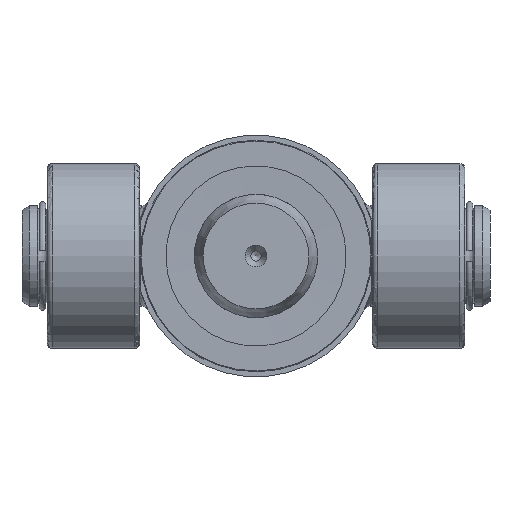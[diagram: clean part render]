
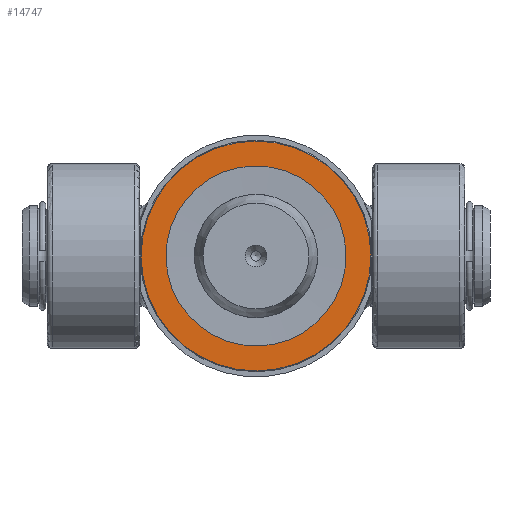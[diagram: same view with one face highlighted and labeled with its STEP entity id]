
A CAD part, front view. The second image highlights one B-rep face of the part: STEP entity #14747.
In plain terms, the highlighted planar face has unit normal (0, -1, 0) as drawn and (0, 0, -1) by its records, which use the part's own axes.
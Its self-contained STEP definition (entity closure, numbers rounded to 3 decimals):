
#3393=PLANE('',#15851);
#3595=FACE_BOUND('',#5366,.T.);
#4420=FACE_OUTER_BOUND('',#5365,.T.);
#5365=EDGE_LOOP('',(#13762));
#5366=EDGE_LOOP('',(#13763));
#5771=CIRCLE('',#15850,44.7);
#5772=CIRCLE('',#15852,35.);
#7246=VERTEX_POINT('',#32117);
#7247=VERTEX_POINT('',#32120);
#9420=EDGE_CURVE('',#7246,#7246,#5771,.T.);
#9421=EDGE_CURVE('',#7247,#7247,#5772,.T.);
#13762=ORIENTED_EDGE('',*,*,#9420,.F.);
#13763=ORIENTED_EDGE('',*,*,#9421,.T.);
#14747=ADVANCED_FACE('',(#4420,#3595),#3393,.F.);
#15850=AXIS2_PLACEMENT_3D('',#32118,#18854,#18855);
#15851=AXIS2_PLACEMENT_3D('',#32119,#18856,#18857);
#15852=AXIS2_PLACEMENT_3D('',#32121,#18858,#18859);
#18854=DIRECTION('center_axis',(0.,0.,1.));
#18855=DIRECTION('ref_axis',(-1.,0.,0.));
#18856=DIRECTION('center_axis',(0.,0.,1.));
#18857=DIRECTION('ref_axis',(1.,0.,0.));
#18858=DIRECTION('center_axis',(0.,0.,1.));
#18859=DIRECTION('ref_axis',(0.,-1.,0.));
#32117=CARTESIAN_POINT('',(44.7,0.,0.));
#32118=CARTESIAN_POINT('Origin',(0.,0.,0.));
#32119=CARTESIAN_POINT('Origin',(0.,0.,0.));
#32120=CARTESIAN_POINT('',(0.,-35.,0.));
#32121=CARTESIAN_POINT('Origin',(0.,0.,0.));
